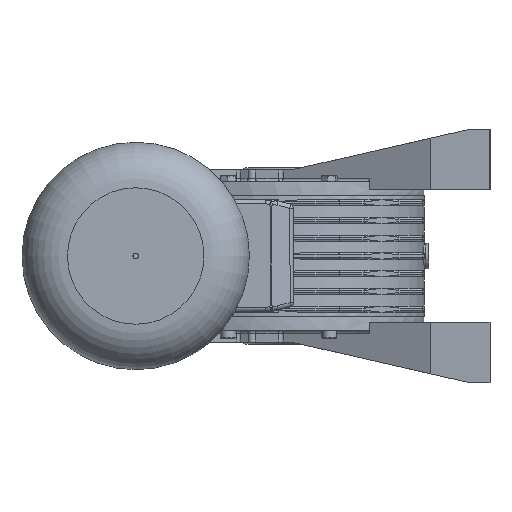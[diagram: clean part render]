
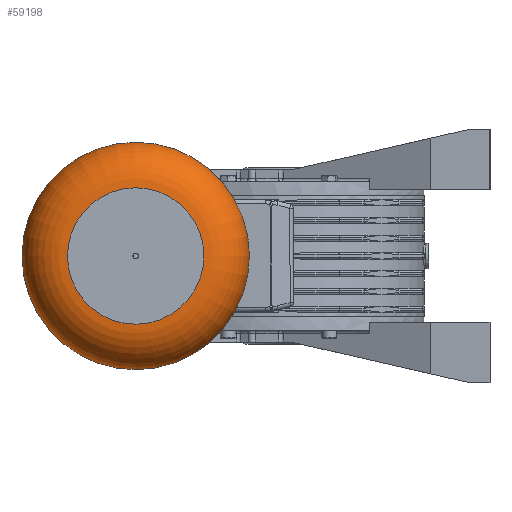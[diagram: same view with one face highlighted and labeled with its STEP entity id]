
A CAD part, left-side view. The second image highlights one B-rep face of the part: STEP entity #59198.
In plain terms, the highlighted toroidal (fillet/blend) face has major radius 59.7 mm and minor radius 39.8 mm.
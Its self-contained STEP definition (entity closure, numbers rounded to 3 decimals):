
#59171=CARTESIAN_POINT('',(447.2,0.0,0.0));
#59172=DIRECTION('',(1.0,0.0,0.0));
#59173=DIRECTION('',(0.0,0.0,-1.0));
#59174=AXIS2_PLACEMENT_3D('',#59171,#59172,#59173);
#59175=TOROIDAL_SURFACE('',#59174,59.7,39.8);
#59176=CARTESIAN_POINT('',(487.0,59.7,0.0));
#59177=VERTEX_POINT('',#59176);
#59178=CARTESIAN_POINT('',(487.0,0.0,0.0));
#59179=DIRECTION('',(1.0,0.0,0.0));
#59180=DIRECTION('',(0.0,1.0,0.0));
#59181=AXIS2_PLACEMENT_3D('',#59178,#59179,#59180);
#59182=CIRCLE('',#59181,59.7);
#59183=EDGE_CURVE('',#59177,#59177,#59182,.T.);
#59184=ORIENTED_EDGE('',*,*,#59183,.F.);
#59185=EDGE_LOOP('',(#59184));
#59186=FACE_OUTER_BOUND('',#59185,.T.);
#59187=CARTESIAN_POINT('',(447.2,99.5,0.0));
#59188=VERTEX_POINT('',#59187);
#59189=CARTESIAN_POINT('',(447.2,0.0,0.0));
#59190=DIRECTION('',(1.0,0.0,0.0));
#59191=DIRECTION('',(0.0,1.0,0.0));
#59192=AXIS2_PLACEMENT_3D('',#59189,#59190,#59191);
#59193=CIRCLE('',#59192,99.5);
#59194=EDGE_CURVE('',#59188,#59188,#59193,.T.);
#59195=ORIENTED_EDGE('',*,*,#59194,.T.);
#59196=EDGE_LOOP('',(#59195));
#59197=FACE_BOUND('',#59196,.T.);
#59198=ADVANCED_FACE('',(#59186,#59197),#59175,.T.);
